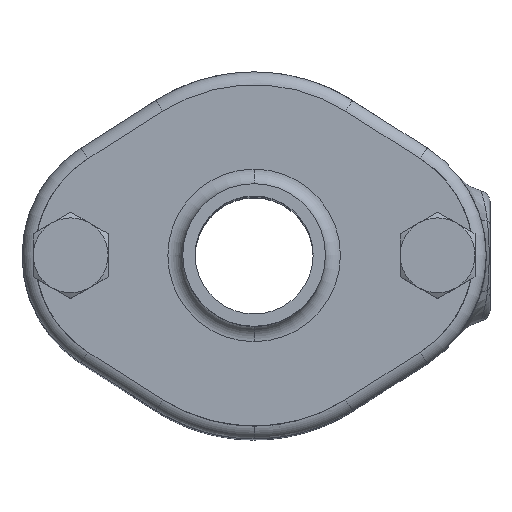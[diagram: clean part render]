
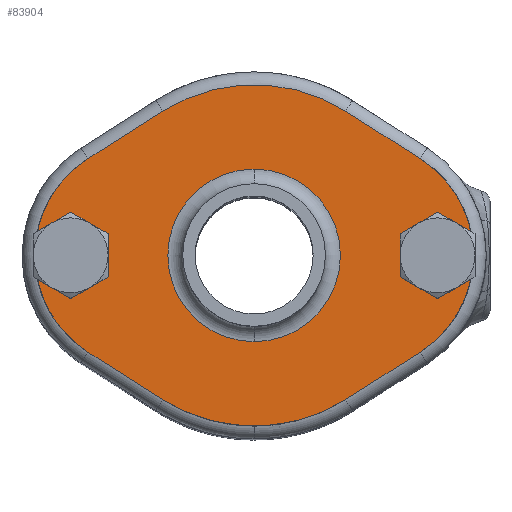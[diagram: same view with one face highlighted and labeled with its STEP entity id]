
A CAD part, top view. The second image highlights one B-rep face of the part: STEP entity #83904.
In plain terms, the highlighted planar face has unit normal (0, 0, 1).
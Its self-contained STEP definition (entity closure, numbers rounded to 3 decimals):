
#441 = VERTEX_POINT ( 'NONE', #67185 ) ;
#789 = DIRECTION ( 'NONE',  ( -1., 0., 0. ) ) ;
#1607 = VERTEX_POINT ( 'NONE', #17074 ) ;
#1958 = CARTESIAN_POINT ( 'NONE',  ( 19.5, 0., 46.5 ) ) ;
#2546 = EDGE_CURVE ( 'NONE', #29279, #6309, #58352, .T. ) ;
#3575 = CARTESIAN_POINT ( 'NONE',  ( 14., 0., 46.5 ) ) ;
#4347 = VECTOR ( 'NONE', #46729, 1000. ) ;
#4358 = ORIENTED_EDGE ( 'NONE', *, *, #79532, .T. ) ;
#4534 = CIRCLE ( 'NONE', #43994, 22.8 ) ;
#5791 = DIRECTION ( 'NONE',  ( 0., -1., 0. ) ) ;
#6031 = VERTEX_POINT ( 'NONE', #45121 ) ;
#6309 = VERTEX_POINT ( 'NONE', #38205 ) ;
#8304 = EDGE_LOOP ( 'NONE', ( #19798, #97654 ) ) ;
#8511 = ORIENTED_EDGE ( 'NONE', *, *, #53706, .T. ) ;
#9514 = EDGE_CURVE ( 'NONE', #441, #1607, #48330, .T. ) ;
#11107 = DIRECTION ( 'NONE',  ( 0., 0., 1. ) ) ;
#11944 = DIRECTION ( 'NONE',  ( 1., 0., 0. ) ) ;
#12428 = AXIS2_PLACEMENT_3D ( 'NONE', #3575, #61410, #11944 ) ;
#12753 = VECTOR ( 'NONE', #40341, 1000. ) ;
#15256 = DIRECTION ( 'NONE',  ( 0., 0., 1. ) ) ;
#15970 = FACE_OUTER_BOUND ( 'NONE', #56516, .T. ) ;
#16469 = AXIS2_PLACEMENT_3D ( 'NONE', #96714, #47169, #104932 ) ;
#17074 = CARTESIAN_POINT ( 'NONE',  ( 22.196, 12.919, 46.5 ) ) ;
#17284 = DIRECTION ( 'NONE',  ( 0., 0., 1. ) ) ;
#18191 = CARTESIAN_POINT ( 'NONE',  ( -14., 0., 46.5 ) ) ;
#18516 = EDGE_CURVE ( 'NONE', #40367, #59924, #100651, .T. ) ;
#18798 = VERTEX_POINT ( 'NONE', #1958 ) ;
#18885 = ORIENTED_EDGE ( 'NONE', *, *, #91233, .T. ) ;
#19162 = EDGE_CURVE ( 'NONE', #6309, #29279, #36438, .T. ) ;
#19798 = ORIENTED_EDGE ( 'NONE', *, *, #19162, .T. ) ;
#21307 = AXIS2_PLACEMENT_3D ( 'NONE', #27892, #85752, #36248 ) ;
#25957 = ORIENTED_EDGE ( 'NONE', *, *, #81594, .T. ) ;
#26524 = DIRECTION ( 'NONE',  ( 1., 0., 0. ) ) ;
#26891 = ORIENTED_EDGE ( 'NONE', *, *, #85694, .T. ) ;
#27118 = ORIENTED_EDGE ( 'NONE', *, *, #9514, .T. ) ;
#27342 = DIRECTION ( 'NONE',  ( 0., 0., -1. ) ) ;
#27892 = CARTESIAN_POINT ( 'NONE',  ( -14., 0., 46.5 ) ) ;
#29279 = VERTEX_POINT ( 'NONE', #88895 ) ;
#32064 = CARTESIAN_POINT ( 'NONE',  ( -22.196, -12.919, 46.5 ) ) ;
#33915 = VERTEX_POINT ( 'NONE', #96706 ) ;
#35023 = CARTESIAN_POINT ( 'NONE',  ( -22.196, -12.919, 46.5 ) ) ;
#35240 = CIRCLE ( 'NONE', #88107, 5. ) ;
#36055 = CIRCLE ( 'NONE', #54615, 15.3 ) ;
#36248 = DIRECTION ( 'NONE',  ( 1., 0., 0. ) ) ;
#36438 = CIRCLE ( 'NONE', #98836, 11.525 ) ;
#36946 = CIRCLE ( 'NONE', #44227, 5. ) ;
#37267 = EDGE_CURVE ( 'NONE', #64962, #18798, #60669, .T. ) ;
#37290 = CIRCLE ( 'NONE', #63428, 22.8 ) ;
#37557 = CARTESIAN_POINT ( 'NONE',  ( 24.5, 0., 46.5 ) ) ;
#38205 = CARTESIAN_POINT ( 'NONE',  ( 0., -11.525, 46.5 ) ) ;
#38428 = CARTESIAN_POINT ( 'NONE',  ( 22.196, 12.919, 46.5 ) ) ;
#38790 = ORIENTED_EDGE ( 'NONE', *, *, #48315, .T. ) ;
#39120 = CIRCLE ( 'NONE', #91000, 5. ) ;
#40341 = DIRECTION ( 'NONE',  ( 0.844, -0.536, 0. ) ) ;
#40367 = VERTEX_POINT ( 'NONE', #35023 ) ;
#40513 = FACE_BOUND ( 'NONE', #8304, .T. ) ;
#41235 = DIRECTION ( 'NONE',  ( 0., 0., 1. ) ) ;
#41768 = CARTESIAN_POINT ( 'NONE',  ( -22.196, 12.919, 46.5 ) ) ;
#42673 = DIRECTION ( 'NONE',  ( 0., 0., -1. ) ) ;
#43994 = AXIS2_PLACEMENT_3D ( 'NONE', #60594, #11107, #68914 ) ;
#44227 = AXIS2_PLACEMENT_3D ( 'NONE', #37557, #95385, #45829 ) ;
#45121 = CARTESIAN_POINT ( 'NONE',  ( 22.196, -12.919, 46.5 ) ) ;
#45829 = DIRECTION ( 'NONE',  ( -1., 0., 0. ) ) ;
#46271 = EDGE_CURVE ( 'NONE', #64806, #40367, #36055, .T. ) ;
#46729 = DIRECTION ( 'NONE',  ( -0.844, 0.536, 0. ) ) ;
#47169 = DIRECTION ( 'NONE',  ( 0., 0., -1. ) ) ;
#48315 = EDGE_CURVE ( 'NONE', #33915, #6031, #72942, .T. ) ;
#48330 = CIRCLE ( 'NONE', #12428, 15.3 ) ;
#48826 = ORIENTED_EDGE ( 'NONE', *, *, #37267, .T. ) ;
#50108 = ORIENTED_EDGE ( 'NONE', *, *, #87156, .T. ) ;
#50332 = DIRECTION ( 'NONE',  ( 0., 0., -1. ) ) ;
#50369 = EDGE_CURVE ( 'NONE', #1607, #60400, #89747, .T. ) ;
#51645 = DIRECTION ( 'NONE',  ( -0.844, -0.536, 0. ) ) ;
#52482 = CIRCLE ( 'NONE', #105087, 15.3 ) ;
#53119 = CARTESIAN_POINT ( 'NONE',  ( -29.207, 1.687, 46.5 ) ) ;
#53291 = CARTESIAN_POINT ( 'NONE',  ( -19.5, 0., 46.5 ) ) ;
#53706 = EDGE_CURVE ( 'NONE', #6031, #64962, #52482, .T. ) ;
#54397 = CARTESIAN_POINT ( 'NONE',  ( 29.207, -1.687, 46.5 ) ) ;
#54615 = AXIS2_PLACEMENT_3D ( 'NONE', #64758, #15256, #73040 ) ;
#55310 = DIRECTION ( 'NONE',  ( 0., 0., -1. ) ) ;
#55489 = LINE ( 'NONE', #83500, #77420 ) ;
#56516 = EDGE_LOOP ( 'NONE', ( #50108, #4358, #84741, #91160, #25957, #38790, #8511, #48826, #73412, #27118, #75894, #18885, #26891, #65551 ) ) ;
#57486 = CARTESIAN_POINT ( 'NONE',  ( 12.214, -19.252, 46.5 ) ) ;
#57975 = EDGE_CURVE ( 'NONE', #95826, #84494, #62940, .T. ) ;
#58352 = CIRCLE ( 'NONE', #103865, 11.525 ) ;
#59382 = EDGE_CURVE ( 'NONE', #18798, #441, #36946, .T. ) ;
#59924 = VERTEX_POINT ( 'NONE', #104911 ) ;
#60400 = VERTEX_POINT ( 'NONE', #67239 ) ;
#60594 = CARTESIAN_POINT ( 'NONE',  ( 0., 0., 46.5 ) ) ;
#60669 = CIRCLE ( 'NONE', #16469, 5. ) ;
#61410 = DIRECTION ( 'NONE',  ( 0., 0., 1. ) ) ;
#61443 = AXIS2_PLACEMENT_3D ( 'NONE', #18191, #76018, #26524 ) ;
#62940 = CIRCLE ( 'NONE', #21307, 15.3 ) ;
#63428 = AXIS2_PLACEMENT_3D ( 'NONE', #90782, #41235, #99091 ) ;
#64758 = CARTESIAN_POINT ( 'NONE',  ( -14., 0., 46.5 ) ) ;
#64806 = VERTEX_POINT ( 'NONE', #78700 ) ;
#64962 = VERTEX_POINT ( 'NONE', #54397 ) ;
#65551 = ORIENTED_EDGE ( 'NONE', *, *, #57975, .T. ) ;
#66780 = CARTESIAN_POINT ( 'NONE',  ( 14., 0., 46.5 ) ) ;
#67185 = CARTESIAN_POINT ( 'NONE',  ( 29.207, 1.687, 46.5 ) ) ;
#67239 = CARTESIAN_POINT ( 'NONE',  ( 12.214, 19.252, 46.5 ) ) ;
#68914 = DIRECTION ( 'NONE',  ( 1., 0., 0. ) ) ;
#72942 = LINE ( 'NONE', #57486, #94995 ) ;
#73040 = DIRECTION ( 'NONE',  ( 1., 0., 0. ) ) ;
#73412 = ORIENTED_EDGE ( 'NONE', *, *, #59382, .T. ) ;
#75091 = DIRECTION ( 'NONE',  ( 1., 0., 0. ) ) ;
#75894 = ORIENTED_EDGE ( 'NONE', *, *, #50369, .T. ) ;
#76018 = DIRECTION ( 'NONE',  ( 0., 0., 1. ) ) ;
#76857 = CARTESIAN_POINT ( 'NONE',  ( -24.5, 0., 46.5 ) ) ;
#76875 = CARTESIAN_POINT ( 'NONE',  ( -12.214, 19.252, 46.5 ) ) ;
#77420 = VECTOR ( 'NONE', #51645, 1000. ) ;
#78700 = CARTESIAN_POINT ( 'NONE',  ( -29.207, -1.687, 46.5 ) ) ;
#79532 = EDGE_CURVE ( 'NONE', #79915, #64806, #39120, .T. ) ;
#79915 = VERTEX_POINT ( 'NONE', #53291 ) ;
#81594 = EDGE_CURVE ( 'NONE', #59924, #33915, #37290, .T. ) ;
#83500 = CARTESIAN_POINT ( 'NONE',  ( -12.214, 19.252, 46.5 ) ) ;
#83904 = ADVANCED_FACE ( 'NONE', ( #15970, #40513 ), #92346, .T. ) ;
#84494 = VERTEX_POINT ( 'NONE', #53119 ) ;
#84741 = ORIENTED_EDGE ( 'NONE', *, *, #46271, .T. ) ;
#85191 = DIRECTION ( 'NONE',  ( -1., 0., 0. ) ) ;
#85694 = EDGE_CURVE ( 'NONE', #105098, #95826, #55489, .T. ) ;
#85752 = DIRECTION ( 'NONE',  ( 0., 0., 1. ) ) ;
#87156 = EDGE_CURVE ( 'NONE', #84494, #79915, #35240, .T. ) ;
#88107 = AXIS2_PLACEMENT_3D ( 'NONE', #99847, #50332, #789 ) ;
#88895 = CARTESIAN_POINT ( 'NONE',  ( 0., 11.525, 46.5 ) ) ;
#89747 = LINE ( 'NONE', #38428, #4347 ) ;
#90782 = CARTESIAN_POINT ( 'NONE',  ( 0., 0., 46.5 ) ) ;
#91000 = AXIS2_PLACEMENT_3D ( 'NONE', #76857, #27342, #85191 ) ;
#91160 = ORIENTED_EDGE ( 'NONE', *, *, #18516, .T. ) ;
#91233 = EDGE_CURVE ( 'NONE', #60400, #105098, #4534, .T. ) ;
#92252 = CARTESIAN_POINT ( 'NONE',  ( 0., 0., 46.5 ) ) ;
#92346 = PLANE ( 'NONE',  #61443 ) ;
#94995 = VECTOR ( 'NONE', #106915, 1000. ) ;
#95385 = DIRECTION ( 'NONE',  ( 0., 0., -1. ) ) ;
#95826 = VERTEX_POINT ( 'NONE', #41768 ) ;
#96706 = CARTESIAN_POINT ( 'NONE',  ( 12.214, -19.252, 46.5 ) ) ;
#96714 = CARTESIAN_POINT ( 'NONE',  ( 24.5, 0., 46.5 ) ) ;
#97654 = ORIENTED_EDGE ( 'NONE', *, *, #2546, .T. ) ;
#98836 = AXIS2_PLACEMENT_3D ( 'NONE', #92252, #42673, #100509 ) ;
#99091 = DIRECTION ( 'NONE',  ( 1., 0., 0. ) ) ;
#99847 = CARTESIAN_POINT ( 'NONE',  ( -24.5, 0., 46.5 ) ) ;
#100509 = DIRECTION ( 'NONE',  ( 0., -1., 0. ) ) ;
#100651 = LINE ( 'NONE', #32064, #12753 ) ;
#103865 = AXIS2_PLACEMENT_3D ( 'NONE', #104768, #55310, #5791 ) ;
#104768 = CARTESIAN_POINT ( 'NONE',  ( 0., 0., 46.5 ) ) ;
#104911 = CARTESIAN_POINT ( 'NONE',  ( -12.214, -19.252, 46.5 ) ) ;
#104932 = DIRECTION ( 'NONE',  ( -1., 0., 0. ) ) ;
#105087 = AXIS2_PLACEMENT_3D ( 'NONE', #66780, #17284, #75091 ) ;
#105098 = VERTEX_POINT ( 'NONE', #76875 ) ;
#106915 = DIRECTION ( 'NONE',  ( 0.844, 0.536, 0. ) ) ;
